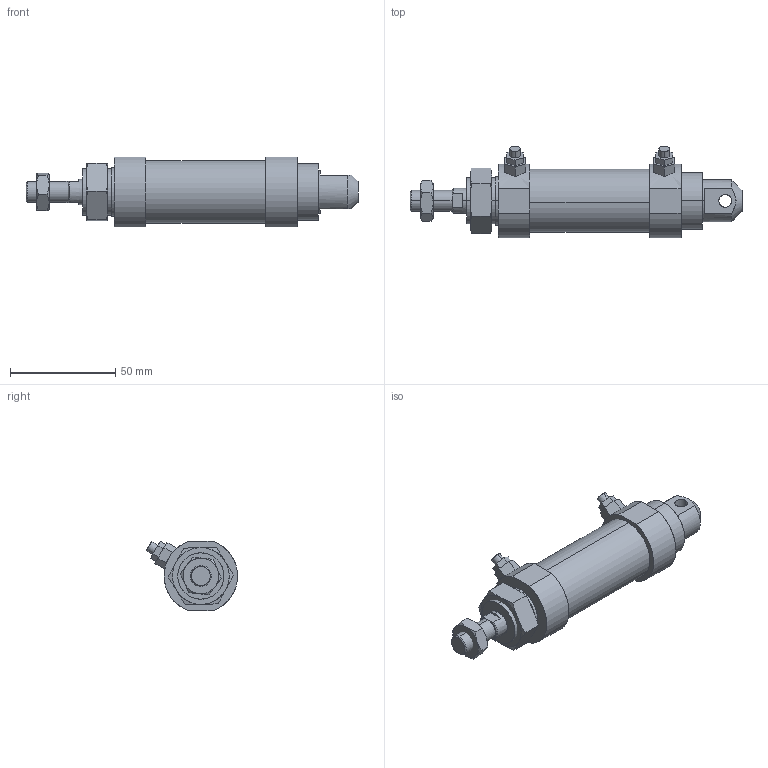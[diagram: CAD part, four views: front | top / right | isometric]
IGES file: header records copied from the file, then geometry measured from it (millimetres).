
Start section: SolidWorks IGES file using analytic representation for surfaces
Global section: file name: C:\Users\Toshiba\Desktop\JG2-25-25-C.IGS; native system: SolidWorks 2014; preprocessor: SolidWorks 2014; author: Toshiba; date: 160419.084743; units: millimetre
Bounding box: 158 x 43.43 x 33 mm (x, y, z)
Surface area: 22147.6 mm2 (no closed solid volume)
Topology: 0 solids, 0 shells, 143 faces, 2324 edges, 2320 vertices
Faces by surface type: bspline 97, revolution 46
